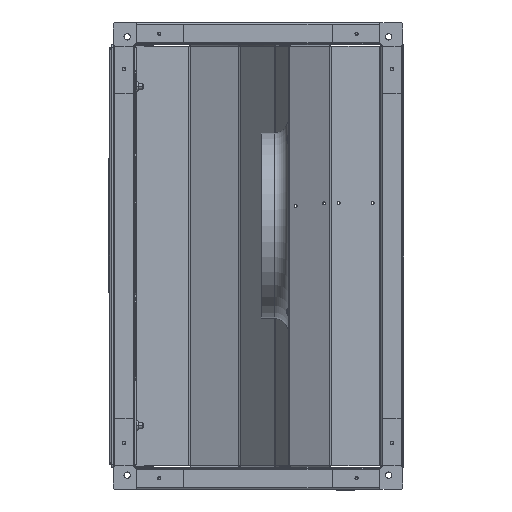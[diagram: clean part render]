
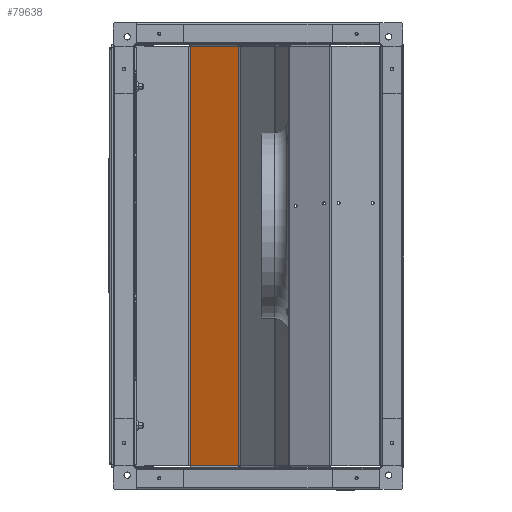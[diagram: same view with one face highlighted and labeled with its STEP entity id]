
A CAD part, left-side view. The second image highlights one B-rep face of the part: STEP entity #79638.
In plain terms, the highlighted planar face has unit normal (0.932, -0.362, 0).
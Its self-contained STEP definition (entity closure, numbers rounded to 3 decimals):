
#40091 = CARTESIAN_POINT ( 'NONE',  ( 266.505, 202.592, 296.7 ) ) ;
#40136 = CARTESIAN_POINT ( 'NONE',  ( 292.977, 270.772, 296.7 ) ) ;
#40689 = CARTESIAN_POINT ( 'NONE',  ( 266.505, 202.592, -296.7 ) ) ;
#41364 = CARTESIAN_POINT ( 'NONE',  ( 292.977, 270.772, -296.7 ) ) ;
#44570 = EDGE_LOOP ( 'NONE', ( #57538, #57454, #57539, #57478 ) ) ;
#46997 = LINE ( 'NONE', #67601, #47003 ) ;
#47003 = VECTOR ( 'NONE', #67619, 1000. ) ;
#47009 = LINE ( 'NONE', #67630, #47017 ) ;
#47017 = VECTOR ( 'NONE', #67641, 1000. ) ;
#47424 = LINE ( 'NONE', #69591, #47430 ) ;
#47430 = VECTOR ( 'NONE', #69611, 1000. ) ;
#57454 = ORIENTED_EDGE ( 'NONE', *, *, #81276, .F. ) ;
#57478 = ORIENTED_EDGE ( 'NONE', *, *, #82603, .T. ) ;
#57538 = ORIENTED_EDGE ( 'NONE', *, *, #81287, .T. ) ;
#57539 = ORIENTED_EDGE ( 'NONE', *, *, #81612, .T. ) ;
#67601 = CARTESIAN_POINT ( 'NONE',  ( 292.977, 270.772, 299. ) ) ;
#67619 = DIRECTION ( 'NONE',  ( 0., 0., -1. ) ) ;
#67630 = CARTESIAN_POINT ( 'NONE',  ( 266.335, 202.153, -296.7 ) ) ;
#67641 = DIRECTION ( 'NONE',  ( 0.362, 0.932, 0. ) ) ;
#69591 = CARTESIAN_POINT ( 'NONE',  ( 293.16, 271.243, 296.7 ) ) ;
#69611 = DIRECTION ( 'NONE',  ( -0.362, -0.932, 0. ) ) ;
#71709 = FACE_OUTER_BOUND ( 'NONE', #44570, .T. ) ;
#79638 = ADVANCED_FACE ( 'NONE', ( #71709 ), #112558, .F. ) ;
#81276 = EDGE_CURVE ( 'NONE', #95261, #96583, #46997, .T. ) ;
#81287 = EDGE_CURVE ( 'NONE', #95847, #96583, #47009, .T. ) ;
#81612 = EDGE_CURVE ( 'NONE', #95261, #95214, #47424, .T. ) ;
#82603 = EDGE_CURVE ( 'NONE', #95214, #95847, #111938, .T. ) ;
#88009 = AXIS2_PLACEMENT_3D ( 'NONE', #112560, #112563, #112566 ) ;
#91849 = CARTESIAN_POINT ( 'NONE',  ( 266.505, 202.592, 299. ) ) ;
#91854 = DIRECTION ( 'NONE',  ( 0., 0., -1. ) ) ;
#95214 = VERTEX_POINT ( 'NONE', #40091 ) ;
#95261 = VERTEX_POINT ( 'NONE', #40136 ) ;
#95847 = VERTEX_POINT ( 'NONE', #40689 ) ;
#96583 = VERTEX_POINT ( 'NONE', #41364 ) ;
#111938 = LINE ( 'NONE', #91849, #111954 ) ;
#111954 = VECTOR ( 'NONE', #91854, 1000. ) ;
#112558 = PLANE ( 'NONE',  #88009 ) ;
#112560 = CARTESIAN_POINT ( 'NONE',  ( 266.036, 201.383, 299. ) ) ;
#112563 = DIRECTION ( 'NONE',  ( -0.932, 0.362, 0. ) ) ;
#112566 = DIRECTION ( 'NONE',  ( -0.362, -0.932, 0. ) ) ;
